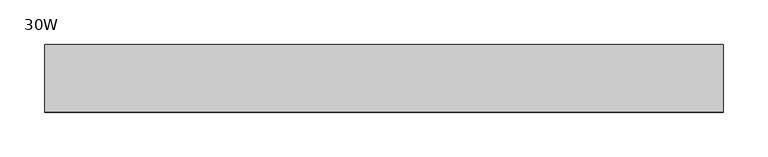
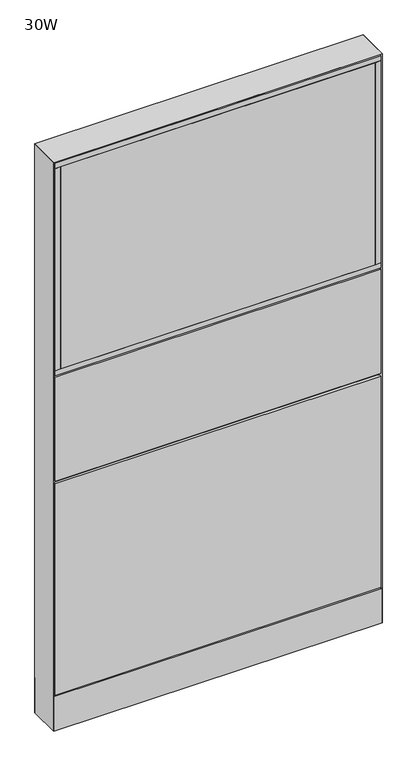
"""IFC4 building model written with IfcOpenShell, lengths in millimetres: furniture geometry, Steelcase - Montage - Frame - 55H - Enhanced Monolithic - Base Cavity : 30W."""

from ifc_helpers import new_model, si_unit, point, frame, frame_2d, origin, origin_with_axes, place, context, project, spatial, polyline, circle_curve, trimmed, segment, composite_curve, outline, extrude, faceted_brep, source, transform, mapped, element, save


def furniture_30w_fa20d450(model_context):
    return source(origin(), model_context, "Body", "SolidModel", [
        extrude(outline(polyline([(15.875, 38.1000015), (746.125, 38.1000015), (746.125, 31.7500017), (15.875, 31.7500017), (15.875, 38.1000015)])), frame((0.0, 0.0, 887.4125), z_axis=(0.0, 0.0, 1.0), x_axis=(1.0, 0.0, 0.0)), (0.0, 0.0, 1.0), 495.3),
        extrude(outline(polyline([(15.875, -31.7499985), (746.125, -31.7499985), (746.125, -38.1000015), (15.875, -38.1000015), (15.875, -31.7499985)])), frame((0.0, 0.0, 887.4125), z_axis=(0.0, 0.0, 1.0), x_axis=(1.0, 0.0, 0.0)), (0.0, 0.0, 1.0), 495.3),
        extrude(outline(polyline([(3.175, -38.1000015), (3.175, 38.1000015), (15.875, 38.1000015), (15.875, -38.1000015), (3.175, -38.1000015)])), frame((0.0, 0.0, 887.4125), z_axis=(0.0, 0.0, 1.0), x_axis=(1.0, 0.0, 0.0)), (0.0, 0.0, 1.0), 495.3),
        extrude(outline(polyline([(746.125, -38.1000015), (746.125, 38.1000015), (758.825, 38.1000015), (758.825, -38.1000015), (746.125, -38.1000015)])), frame((0.0, 0.0, 887.4125), z_axis=(0.0, 0.0, 1.0), x_axis=(1.0, 0.0, 0.0)), (0.0, 0.0, 1.0), 495.3),
        extrude(outline(polyline([(3.175, -38.1000015), (3.175, 38.1000015), (758.825, 38.1000015), (758.825, -38.1000015), (3.175, -38.1000015)])), frame((0.0, 0.0, 874.7125), z_axis=(0.0, 0.0, 1.0), x_axis=(1.0, 0.0, 0.0)), (0.0, 0.0, 1.0), 12.7),
        extrude(outline(polyline([(3.175, -38.1000015), (3.175, 38.1000015), (758.825, 38.1000015), (758.825, -38.1000015), (3.175, -38.1000015)])), frame((0.0, 0.0, 1382.7125), z_axis=(0.0, 0.0, 1.0), x_axis=(1.0, 0.0, 0.0)), (0.0, 0.0, 1.0), 12.7),
        extrude(outline(polyline([(758.825, 31.7500194), (3.175, 31.7500194), (3.175, 38.1000194), (758.825, 38.1000194), (758.825, 31.7500194)])), frame((0.0, 0.0, 615.95), z_axis=(0.0, 0.0, 1.0), x_axis=(1.0, 0.0, 0.0)), (0.0, 0.0, 1.0), 255.5875),
        extrude(outline(polyline([(758.825, 31.7500194), (3.175, 31.7500194), (3.175, 38.1000194), (758.825, 38.1000194), (758.825, 31.7500194)])), frame((0.0, 0.0, 92.075), z_axis=(0.0, 0.0, 1.0), x_axis=(1.0, 0.0, 0.0)), (0.0, 0.0, 1.0), 517.525),
        extrude(outline(polyline([(746.125, 38.1000015), (746.125, 31.7500017), (15.875, 31.7500017), (15.875, 38.1000015), (746.125, 38.1000015)])), frame((0.0, 0.0, 887.4125), z_axis=(0.0, 0.0, 1.0), x_axis=(1.0, 0.0, 0.0)), (0.0, 0.0, 1.0), 495.3),
        extrude(outline(polyline([(746.125, -31.7499985), (746.125, -38.1000015), (15.875, -38.1000015), (15.875, -31.7499985), (746.125, -31.7499985)])), frame((0.0, 0.0, 887.4125), z_axis=(0.0, 0.0, 1.0), x_axis=(1.0, 0.0, 0.0)), (0.0, 0.0, 1.0), 495.3),
        extrude(outline(polyline([(758.825, -38.1000015), (746.125, -38.1000015), (746.125, 38.1000015), (758.825, 38.1000015), (758.825, -38.1000015)])), frame((0.0, 0.0, 887.4125), z_axis=(0.0, 0.0, 1.0), x_axis=(1.0, 0.0, 0.0)), (0.0, 0.0, 1.0), 495.3),
        extrude(outline(polyline([(15.875, -38.1000015), (3.175, -38.1000015), (3.175, 38.1000015), (15.875, 38.1000015), (15.875, -38.1000015)])), frame((0.0, 0.0, 887.4125), z_axis=(0.0, 0.0, 1.0), x_axis=(1.0, 0.0, 0.0)), (0.0, 0.0, 1.0), 495.3),
        extrude(outline(polyline([(758.825, -38.1000015), (3.175, -38.1000015), (3.175, 38.1000015), (758.825, 38.1000015), (758.825, -38.1000015)])), frame((0.0, 0.0, 874.7125), z_axis=(0.0, 0.0, 1.0), x_axis=(1.0, 0.0, 0.0)), (0.0, 0.0, 1.0), 12.7),
        extrude(outline(polyline([(758.825, -38.1000015), (3.175, -38.1000015), (3.175, 38.1000015), (758.825, 38.1000015), (758.825, -38.1000015)])), frame((0.0, 0.0, 1382.7125), z_axis=(0.0, 0.0, 1.0), x_axis=(1.0, 0.0, 0.0)), (0.0, 0.0, 1.0), 12.7),
        extrude(outline(polyline([(3.175, 31.7500194), (3.175, 38.1000194), (758.825, 38.1000194), (758.825, 31.7500194), (3.175, 31.7500194)])), frame((0.0, 0.0, 615.95), z_axis=(0.0, 0.0, 1.0), x_axis=(1.0, 0.0, 0.0)), (0.0, 0.0, 1.0), 255.5875),
        extrude(outline(polyline([(3.175, 31.7500194), (3.175, 38.1000194), (758.825, 38.1000194), (758.825, 31.7500194), (3.175, 31.7500194)])), frame((0.0, 0.0, 92.075), z_axis=(0.0, 0.0, 1.0), x_axis=(1.0, 0.0, 0.0)), (0.0, 0.0, 1.0), 517.525),
        extrude(outline(polyline([(746.125, -38.1000015), (15.875, -38.1000015), (15.875, -31.7500017), (746.125, -31.7500017), (746.125, -38.1000015)])), frame((0.0, 0.0, 887.4125), z_axis=(0.0, 0.0, 1.0), x_axis=(1.0, 0.0, 0.0)), (0.0, 0.0, 1.0), 495.3),
        extrude(outline(polyline([(746.125, 31.7499985), (15.875, 31.7499985), (15.875, 38.1000015), (746.125, 38.1000015), (746.125, 31.7499985)])), frame((0.0, 0.0, 887.4125), z_axis=(0.0, 0.0, 1.0), x_axis=(1.0, 0.0, 0.0)), (0.0, 0.0, 1.0), 495.3),
        extrude(outline(polyline([(758.825, 38.1000015), (758.825, -38.1000015), (746.125, -38.1000015), (746.125, 38.1000015), (758.825, 38.1000015)])), frame((0.0, 0.0, 887.4125), z_axis=(0.0, 0.0, 1.0), x_axis=(1.0, 0.0, 0.0)), (0.0, 0.0, 1.0), 495.3),
        extrude(outline(polyline([(15.875, 38.1000015), (15.875, -38.1000015), (3.175, -38.1000015), (3.175, 38.1000015), (15.875, 38.1000015)])), frame((0.0, 0.0, 887.4125), z_axis=(0.0, 0.0, 1.0), x_axis=(1.0, 0.0, 0.0)), (0.0, 0.0, 1.0), 495.3),
        extrude(outline(polyline([(758.825, 38.1000015), (758.825, -38.1000015), (3.175, -38.1000015), (3.175, 38.1000015), (758.825, 38.1000015)])), frame((0.0, 0.0, 874.7125), z_axis=(0.0, 0.0, 1.0), x_axis=(1.0, 0.0, 0.0)), (0.0, 0.0, 1.0), 12.7),
        extrude(outline(polyline([(758.825, 38.1000015), (758.825, -38.1000015), (3.175, -38.1000015), (3.175, 38.1000015), (758.825, 38.1000015)])), frame((0.0, 0.0, 1382.7125), z_axis=(0.0, 0.0, 1.0), x_axis=(1.0, 0.0, 0.0)), (0.0, 0.0, 1.0), 12.7),
        extrude(outline(polyline([(3.175, -31.7500194), (758.825, -31.7500194), (758.825, -38.1000194), (3.175, -38.1000194), (3.175, -31.7500194)])), frame((0.0, 0.0, 615.95), z_axis=(0.0, 0.0, 1.0), x_axis=(1.0, 0.0, 0.0)), (0.0, 0.0, 1.0), 255.5875),
        extrude(outline(polyline([(3.175, -31.7500194), (758.825, -31.7500194), (758.825, -38.1000194), (3.175, -38.1000194), (3.175, -31.7500194)])), frame((0.0, 0.0, 92.075), z_axis=(0.0, 0.0, 1.0), x_axis=(1.0, 0.0, 0.0)), (0.0, 0.0, 1.0), 517.525),
        extrude(outline(polyline([(6.350003, -31.7499985), (755.649997, -31.7499985), (762.0, -38.1000015), (0.0, -38.1000015), (6.350003, -31.7499985)])), frame((0.0, 0.0, 4.064), z_axis=(0.0, 0.0, 1.0), x_axis=(1.0, 0.0, 0.0)), (0.0, 0.0, 1.0), 84.835997),
        extrude(outline(polyline([(6.3500002, 31.7500017), (0.0, 38.1000015), (762.0, 38.1000015), (755.6500002, 31.7500017), (6.3500002, 31.7500017)])), frame((0.0, 0.0, 4.064), z_axis=(0.0, 0.0, 1.0), x_axis=(1.0, 0.0, 0.0)), (0.0, 0.0, 1.0), 84.835997),
        faceted_brep([(762.0, -38.1000015, 1398.5875), (0.0, -38.1000015, 1398.5875), (6.3500484, -31.749953, 1392.2374516), (755.6499516, -31.749953, 1392.2374516), (6.3500484, 31.749953, 1392.2374516), (755.6499516, 31.749953, 1392.2374516), (0.0, 38.1000015, 1398.5875), (762.0, 38.1000015, 1398.5875)], [[[0, 1, 2, 3]], [[3, 2, 4, 5]], [[6, 7, 5, 4]], [[1, 0, 7, 6]], [[2, 1, 6, 4]], [[0, 3, 5, 7]]]),
        extrude(outline(composite_curve([segment(trimmed(circle_curve(frame_2d((44.45, 0.0)), 15.24), [point((29.21, 0.0))], [point((59.69, 0.0))], False, "CARTESIAN"), True, "CONTINUOUS"), segment(trimmed(circle_curve(frame_2d((44.45, 0.0)), 15.24), [point((59.69, 0.0))], [point((29.21, 0.0))], False, "CARTESIAN"), True, "CONTINUOUS")], self_intersect=False)), origin_with_axes(), (0.0, 0.0, 1.0), 4.064),
        extrude(outline(composite_curve([segment(trimmed(circle_curve(frame_2d((717.55, 0.0)), 15.24), [point((702.31, 0.0))], [point((732.79, 0.0))], False, "CARTESIAN"), True, "CONTINUOUS"), segment(trimmed(circle_curve(frame_2d((717.55, 0.0)), 15.24), [point((732.79, 0.0))], [point((702.31, 0.0))], False, "CARTESIAN"), True, "CONTINUOUS")], self_intersect=False)), origin_with_axes(), (0.0, 0.0, 1.0), 4.064),
        faceted_brep([(762.0, -38.1000106, 4.064), (762.0, 38.1000015, 4.064), (762.0, 38.1000015, 1398.5875), (762.0, -38.1000106, 1398.5874637), (0.0, 38.1000015, 4.064), (0.0, -38.1000015, 4.064), (0.0, -38.1000015, 1398.5875), (0.0, 38.1000015, 1398.5875), (755.6499879, 31.7500017, 606.425), (6.35, 31.7500017, 606.425), (6.3499998, 31.7500017, 619.125), (755.6499879, 31.7500017, 619.125), (6.35, -31.7499985, 619.125), (755.6499879, -31.7499985, 619.125), (6.350003, -31.7499985, 606.425), (755.6499879, -31.7499985, 606.425), (6.35, 31.7500015, 4.064), (6.35, -31.7500015, 4.064), (755.6499879, 31.7499894, 4.064), (755.6499879, -31.7499985, 4.064), (6.35, 31.7500015, 1392.2375), (6.35, -31.7500015, 1392.2375), (755.6499879, -31.7499985, 1392.2374516), (755.6499879, 31.7499895, 1392.2374516)], [[[0, 1, 2, 3]], [[4, 5, 6, 7]], [[8, 9, 10, 11]], [[11, 10, 12, 13]], [[13, 12, 14, 15]], [[9, 8, 15, 14]], [[16, 17, 5, 4]], [[18, 1, 0, 19]], [[16, 4, 7, 20, 10, 9]], [[5, 17, 14, 12, 21, 6]], [[17, 16, 9, 14]], [[12, 10, 20, 21]], [[18, 19, 15, 8]], [[11, 13, 22, 23]], [[19, 0, 3, 22, 13, 15]], [[1, 18, 8, 11, 23, 2]], [[7, 6, 21, 20]], [[3, 2, 23, 22]]]),
    ])


if __name__ == "__main__":
    model = new_model("IFC4")
    model_context = context("Model", 3, world=origin())
    ifc_project = project(units=[si_unit("LENGTHUNIT", "METRE", prefix="MILLI")], contexts=[model_context])
    site = spatial("IfcSite", under=ifc_project)
    building = spatial("IfcBuilding", under=site)
    placement = place(None, origin())
    furniture_30w_shape = furniture_30w_fa20d450(model_context)
    element("IfcFurniture", 1, ObjectType="Steelcase - Montage - Frame - 55H - Enhanced Monolithic - Base Cavity : 30W", at=placement, inside=building, context=model_context, shape_type="MappedRepresentation", body=[
        mapped(furniture_30w_shape, transform((0.0, 0.0, 0.0), x_axis=(1.0, 0.0, 0.0), y_axis=(0.0, 1.0, 0.0), z_axis=(0.0, 0.0, 1.0))),
    ])
    save(model, "model.ifc")
